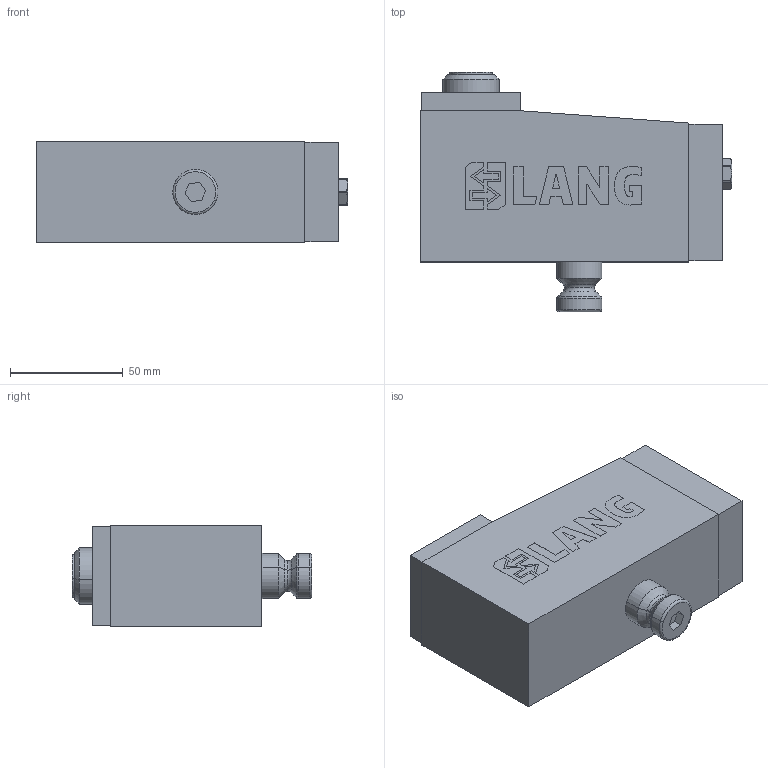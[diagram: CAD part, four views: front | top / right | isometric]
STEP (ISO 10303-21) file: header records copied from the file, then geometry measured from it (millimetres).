
FILE_DESCRIPTION (( 'STEP AP214' ), '1' );
FILE_NAME ('81586.STEP', '2020-10-28T08:43:35', ( '' ), ( '' ), 'SwSTEP 2.0', 'SolidWorks 2019', '' );
FILE_SCHEMA (( 'AUTOMOTIVE_DESIGN' ));
Length unit declared in the file: millimetre
Products named in the file (1): 81586
Bounding box: 138 x 106 x 45 mm (x, y, z)
Volume: 417251.4 mm3; surface area: 53889.9 mm2
Topology: 6 solids, 6 shells, 310 faces, 793 edges, 519 vertices
Faces by surface type: plane 220, bspline 34, cylinder 30, cone 18, torus 8
Entity records: 12958 total; most frequent: CARTESIAN_POINT 2111, ORIENTED_EDGE 1582, DIRECTION 1359, EDGE_CURVE 791, LINE 625, VECTOR 625, VERTEX_POINT 519, AXIS2_PLACEMENT_3D 367
